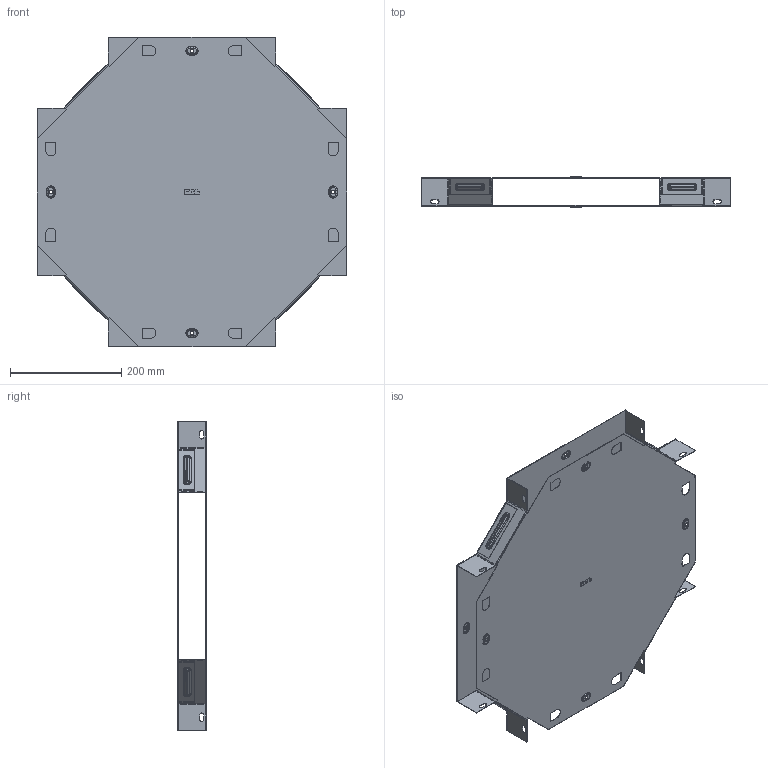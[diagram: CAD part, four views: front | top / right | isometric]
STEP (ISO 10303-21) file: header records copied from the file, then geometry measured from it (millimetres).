
FILE_DESCRIPTION (( 'STEP AP214' ), '1' );
FILE_NAME ('x5030008_捘.STEP', '2019-06-10T07:20:00', ( '砐錪賧瘔蠈錪 Windows' ), ( '' ), 'SwSTEP 2.0', 'SolidWorks 2018', '' );
FILE_SCHEMA (( 'AUTOMOTIVE_DESIGN' ));
Length unit declared in the file: millimetre
Products named in the file (1): x5030008_捘
Bounding box: 555.01 x 53.8 x 555.01 mm (x, y, z)
Volume: 437955.4 mm3; surface area: 1100512.3 mm2
Topology: 2 solids, 2 shells, 846 faces, 2394 edges, 1548 vertices
Faces by surface type: plane 430, cylinder 270, torus 128, bspline 18
Entity records: 28425 total; most frequent: CARTESIAN_POINT 5747, ORIENTED_EDGE 4788, DIRECTION 4748, EDGE_CURVE 2394, VECTOR 1626, LINE 1626, AXIS2_PLACEMENT_3D 1561, VERTEX_POINT 1548
